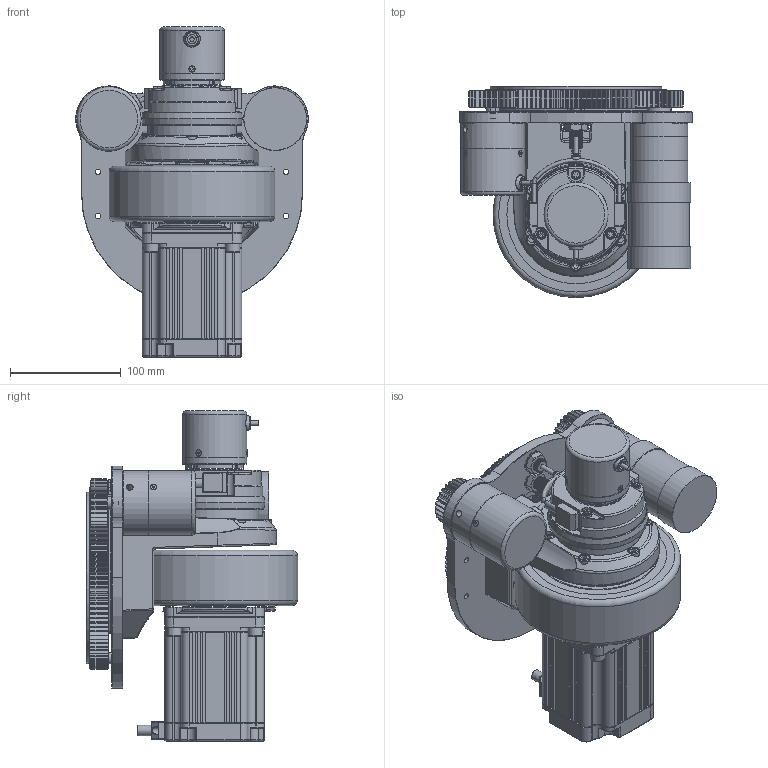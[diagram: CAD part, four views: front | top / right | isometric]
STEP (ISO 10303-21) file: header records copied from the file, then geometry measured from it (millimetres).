
FILE_DESCRIPTION (( 'STEP AP214' ), '1' );
FILE_NAME ('ZLW-190-5008-908.STEP', '2019-04-23T23:42:03', ( '' ), ( '' ), 'SwSTEP 2.0', 'SolidWorks 2016', '' );
FILE_SCHEMA (( 'AUTOMOTIVE_DESIGN' ));
Length unit declared in the file: millimetre
Products named in the file (1): ZLW-190-5008-908
Bounding box: 210.4 x 191 x 298.5 mm (x, y, z)
Surface area: 429022.2 mm2 (no closed solid volume)
Topology: 0 solids, 116 shells, 2126 faces, 6607 edges, 4486 vertices
Faces by surface type: cylinder 1003, plane 608, cone 330, bspline 108, torus 70, sphere 7
Full cylindrical faces by diameter (mm): 1.5 x2, 3 x6, 3.3 x5, 4 x2, 4.5 x2, 4.7 x3, 5 x18, 5.1 x1, 5.54 x6, 6 x6, 6.5 x1, 7 x3, 7.53 x1, 8 x3, 8.5 x5, 9 x8, 9.5 x1, 10 x5, 11 x14, 12 x2, 13 x4, 16 x1, 16.7 x1, 19.8 x1, 20 x1, 22 x1, 25 x1, 38 x1, 52 x4, 54 x1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
Entity records: 110891 total; most frequent: CARTESIAN_POINT 31861, DIRECTION 11892, ORIENTED_EDGE 10200, EDGE_CURVE 6259, AXIS2_PLACEMENT_3D 4674, VERTEX_POINT 4417, CIRCLE 2655, EDGE_LOOP 2605
